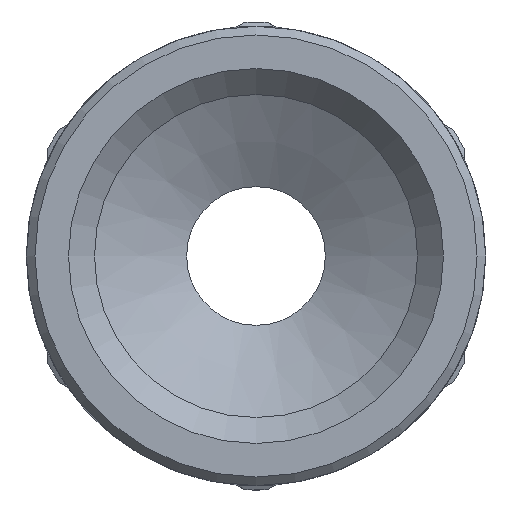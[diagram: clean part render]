
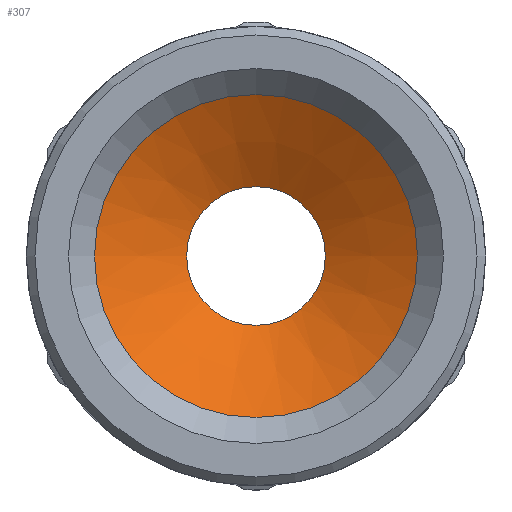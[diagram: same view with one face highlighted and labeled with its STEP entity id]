
A CAD part, front view. The second image highlights one B-rep face of the part: STEP entity #307.
In plain terms, the highlighted conical face has half-angle 60 degrees and reference radius 6.658 mm.
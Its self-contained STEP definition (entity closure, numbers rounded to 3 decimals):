
#307=ADVANCED_FACE('',(#2044,#2046),#2048,.F.);
#2044=FACE_OUTER_BOUND('',#2045,.T.);
#2045=EDGE_LOOP('',(#4009));
#2046=FACE_OUTER_BOUND('',#2047,.T.);
#2047=EDGE_LOOP('',(#4010));
#2048=CONICAL_SURFACE('',#2049,6.658,1.047);
#2049=AXIS2_PLACEMENT_3D('',#2050,#2051,#2052);
#2050=CARTESIAN_POINT('',(0.,15.535,0.));
#2051=DIRECTION('',(0.,-1.,0.));
#2052=DIRECTION('',(1.,0.,0.));
#4009=ORIENTED_EDGE('',*,*,#4858,.T.);
#4010=ORIENTED_EDGE('',*,*,#4860,.F.);
#4858=EDGE_CURVE('',#6032,#6032,#6033,.T.);
#4860=EDGE_CURVE('',#6036,#6036,#6037,.T.);
#6032=VERTEX_POINT('',#9615);
#6033=CIRCLE('',#9616,9.316);
#6036=VERTEX_POINT('',#9625);
#6037=CIRCLE('',#9626,4.);
#9615=CARTESIAN_POINT('',(9.316,14.,0.));
#9616=AXIS2_PLACEMENT_3D('',#9617,#9618,#9619);
#9617=CARTESIAN_POINT('',(0.,14.,0.));
#9618=DIRECTION('',(0.,-1.,0.));
#9619=DIRECTION('',(1.,0.,0.));
#9625=CARTESIAN_POINT('',(4.,17.069,0.));
#9626=AXIS2_PLACEMENT_3D('',#9627,#9628,#9629);
#9627=CARTESIAN_POINT('',(0.,17.069,0.));
#9628=DIRECTION('',(0.,-1.,0.));
#9629=DIRECTION('',(1.,0.,0.));
